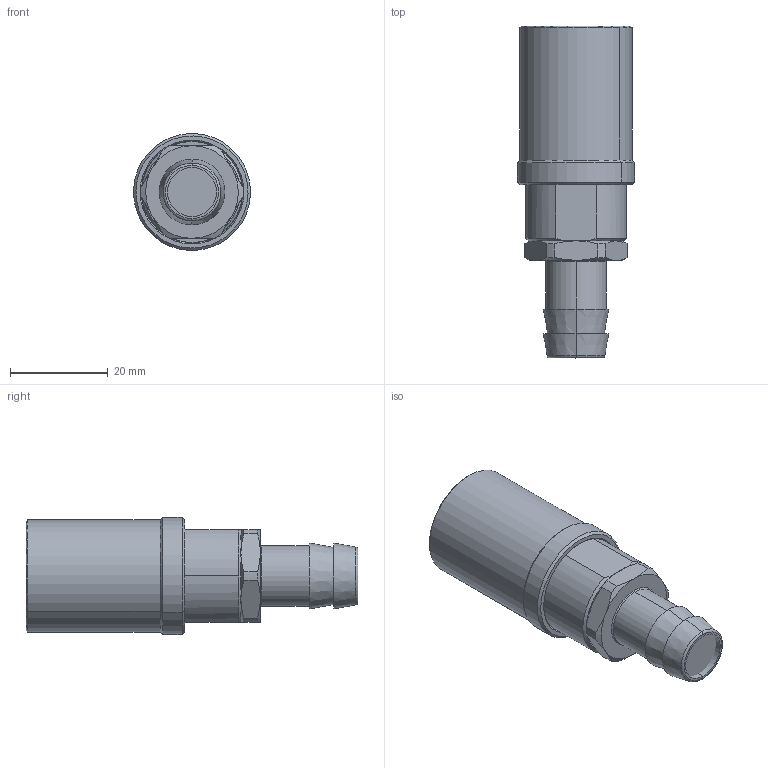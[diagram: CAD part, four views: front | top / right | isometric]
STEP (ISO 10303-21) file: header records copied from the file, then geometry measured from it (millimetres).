
FILE_DESCRIPTION (( 'STEP AP214' ), '1' );
FILE_NAME ('0044500002.step', '2012-11-19T11:06:36', ( '' ), ( '' ), 'SwSTEP 2.0', 'SolidWorks 2012', '' );
FILE_SCHEMA (( 'AUTOMOTIVE_DESIGN' ));
Length unit declared in the file: millimetre
Products named in the file (1): 0044500002
Bounding box: 23.99 x 68.05 x 23.99 mm (x, y, z)
Volume: 26210.2 mm3; surface area: 17431.6 mm2
Topology: 11 solids, 11 shells, 208 faces, 468 edges, 285 vertices
Faces by surface type: cylinder 78, cone 63, plane 37, torus 18, sphere 12
Entity records: 8554 total; most frequent: CARTESIAN_POINT 1686, DIRECTION 1043, ORIENTED_EDGE 876, AXIS2_PLACEMENT_3D 448, EDGE_CURVE 438, VERTEX_POINT 267, EDGE_LOOP 241, CIRCLE 239
